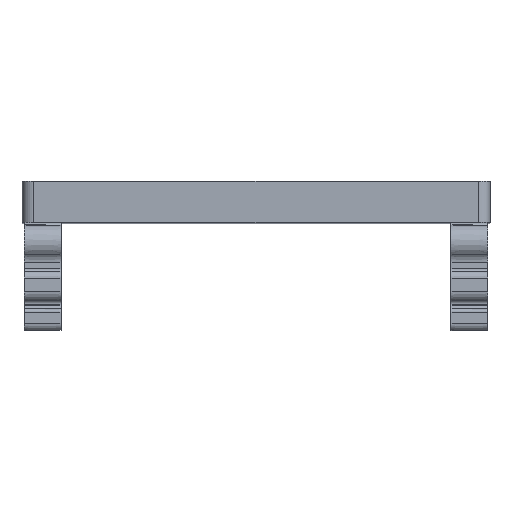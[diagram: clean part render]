
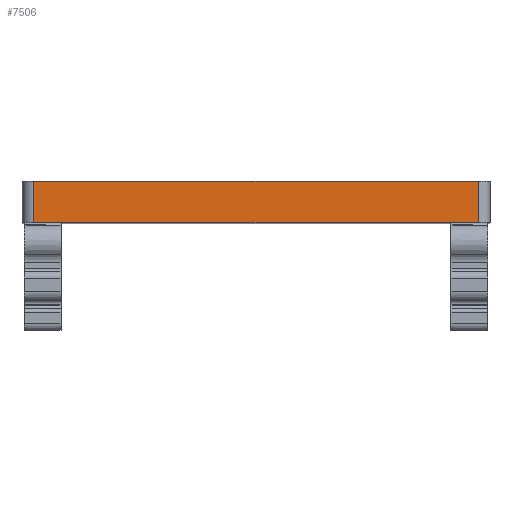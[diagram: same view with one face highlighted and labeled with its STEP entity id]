
A CAD part, top view. The second image highlights one B-rep face of the part: STEP entity #7506.
In plain terms, the highlighted planar face has unit normal (0, 0, 1).
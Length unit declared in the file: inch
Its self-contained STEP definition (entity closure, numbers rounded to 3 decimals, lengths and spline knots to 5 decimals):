
#336 = DIRECTION ( 'NONE',  ( 1., 0., 0. ) ) ;
#540 = CARTESIAN_POINT ( 'NONE',  ( 1.1875, 0., 2. ) ) ;
#1036 = EDGE_CURVE ( 'NONE', #2502, #6206, #11105, .T. ) ;
#1621 = VECTOR ( 'NONE', #336, 39.37008 ) ;
#2058 = CARTESIAN_POINT ( 'NONE',  ( 1.1875, 0.22, 2. ) ) ;
#2358 = ORIENTED_EDGE ( 'NONE', *, *, #7786, .T. ) ;
#2502 = VERTEX_POINT ( 'NONE', #11167 ) ;
#3170 = EDGE_CURVE ( 'NONE', #10755, #4083, #10862, .T. ) ;
#3267 = EDGE_LOOP ( 'NONE', ( #2358, #6288, #3400, #12320 ) ) ;
#3400 = ORIENTED_EDGE ( 'NONE', *, *, #10149, .F. ) ;
#4083 = VERTEX_POINT ( 'NONE', #540 ) ;
#4635 = LINE ( 'NONE', #7034, #1621 ) ;
#5311 = PLANE ( 'NONE',  #12319 ) ;
#5385 = CARTESIAN_POINT ( 'NONE',  ( 1.1875, 0.22, 2. ) ) ;
#6082 = VECTOR ( 'NONE', #9771, 39.37008 ) ;
#6206 = VERTEX_POINT ( 'NONE', #11862 ) ;
#6288 = ORIENTED_EDGE ( 'NONE', *, *, #3170, .F. ) ;
#6418 = LINE ( 'NONE', #8658, #6082 ) ;
#7034 = CARTESIAN_POINT ( 'NONE',  ( 1.1875, 0.22, 2. ) ) ;
#7506 = ADVANCED_FACE ( 'NONE', ( #11367 ), #5311, .F. ) ;
#7786 = EDGE_CURVE ( 'NONE', #6206, #4083, #6418, .T. ) ;
#8658 = CARTESIAN_POINT ( 'NONE',  ( 1.1875, 0., 2. ) ) ;
#9771 = DIRECTION ( 'NONE',  ( 1., 0., 0. ) ) ;
#10149 = EDGE_CURVE ( 'NONE', #2502, #10755, #4635, .T. ) ;
#10755 = VERTEX_POINT ( 'NONE', #5385 ) ;
#10862 = LINE ( 'NONE', #11987, #13147 ) ;
#10922 = DIRECTION ( 'NONE',  ( 0., -1., 0. ) ) ;
#11101 = DIRECTION ( 'NONE',  ( 0., 0., -1. ) ) ;
#11105 = LINE ( 'NONE', #12010, #11988 ) ;
#11167 = CARTESIAN_POINT ( 'NONE',  ( -1.1875, 0.22, 2. ) ) ;
#11367 = FACE_OUTER_BOUND ( 'NONE', #3267, .T. ) ;
#11862 = CARTESIAN_POINT ( 'NONE',  ( -1.1875, 0., 2. ) ) ;
#11987 = CARTESIAN_POINT ( 'NONE',  ( 1.1875, 0.22, 2. ) ) ;
#11988 = VECTOR ( 'NONE', #10922, 39.37008 ) ;
#12010 = CARTESIAN_POINT ( 'NONE',  ( -1.1875, 0.22, 2. ) ) ;
#12319 = AXIS2_PLACEMENT_3D ( 'NONE', #2058, #11101, #13174 ) ;
#12320 = ORIENTED_EDGE ( 'NONE', *, *, #1036, .T. ) ;
#13113 = DIRECTION ( 'NONE',  ( 0., -1., 0. ) ) ;
#13147 = VECTOR ( 'NONE', #13113, 39.37008 ) ;
#13174 = DIRECTION ( 'NONE',  ( -1., 0., 0. ) ) ;
